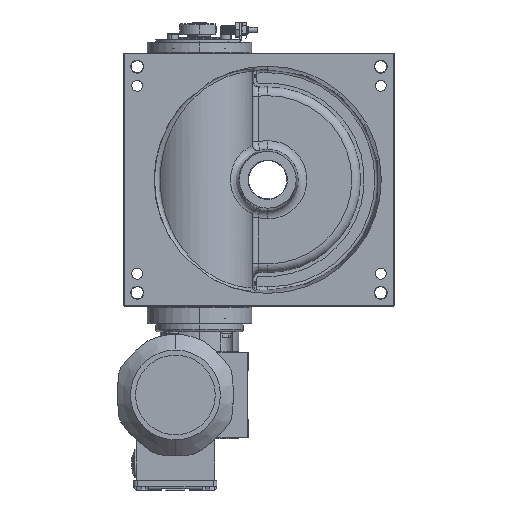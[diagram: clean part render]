
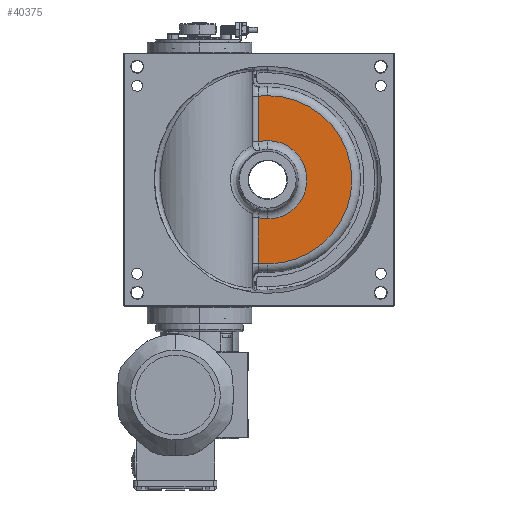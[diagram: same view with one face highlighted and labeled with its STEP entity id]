
A CAD part, front view. The second image highlights one B-rep face of the part: STEP entity #40375.
In plain terms, the highlighted planar face has unit normal (0, -1, 0).
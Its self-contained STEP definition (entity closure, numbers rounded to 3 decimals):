
#369 = VERTEX_POINT ( 'NONE', #45977 ) ;
#3325 = CARTESIAN_POINT ( 'NONE',  ( 0., 63.6, 77.004 ) ) ;
#4085 = DIRECTION ( 'NONE',  ( 0., 0., -1. ) ) ;
#4348 = CIRCLE ( 'NONE', #29787, 35.841 ) ;
#4965 = LINE ( 'NONE', #52144, #61152 ) ;
#5369 = VERTEX_POINT ( 'NONE', #6108 ) ;
#5604 = DIRECTION ( 'NONE',  ( 0., -1., 0. ) ) ;
#6108 = CARTESIAN_POINT ( 'NONE',  ( -8.737, 63.6, -76.507 ) ) ;
#9042 = CARTESIAN_POINT ( 'NONE',  ( 0., 63.6, 35.841 ) ) ;
#10329 = CARTESIAN_POINT ( 'NONE',  ( 0., 63.6, 0. ) ) ;
#11969 = LINE ( 'NONE', #42294, #32937 ) ;
#13239 = EDGE_CURVE ( 'NONE', #5369, #20577, #55159, .T. ) ;
#13867 = CIRCLE ( 'NONE', #30408, 35.841 ) ;
#13874 = ORIENTED_EDGE ( 'NONE', *, *, #65819, .T. ) ;
#14852 = CARTESIAN_POINT ( 'NONE',  ( 0., 63.6, 0. ) ) ;
#20526 = VERTEX_POINT ( 'NONE', #55568 ) ;
#20577 = VERTEX_POINT ( 'NONE', #38685 ) ;
#20694 = EDGE_CURVE ( 'NONE', #20526, #369, #13867, .T. ) ;
#23083 = VERTEX_POINT ( 'NONE', #9042 ) ;
#23374 = CIRCLE ( 'NONE', #68158, 77.004 ) ;
#23524 = FACE_OUTER_BOUND ( 'NONE', #74339, .T. ) ;
#25264 = CARTESIAN_POINT ( 'NONE',  ( -8.737, 63.6, 34.76 ) ) ;
#25466 = DIRECTION ( 'NONE',  ( 0., 0., -1. ) ) ;
#26495 = ORIENTED_EDGE ( 'NONE', *, *, #45075, .T. ) ;
#26795 = EDGE_CURVE ( 'NONE', #20577, #37295, #23374, .T. ) ;
#29787 = AXIS2_PLACEMENT_3D ( 'NONE', #14852, #39201, #39995 ) ;
#30408 = AXIS2_PLACEMENT_3D ( 'NONE', #10329, #53505, #77871 ) ;
#32070 = VERTEX_POINT ( 'NONE', #25264 ) ;
#32937 = VECTOR ( 'NONE', #25466, 1000. ) ;
#34012 = DIRECTION ( 'NONE',  ( 0., 1., 0. ) ) ;
#35399 = CARTESIAN_POINT ( 'NONE',  ( 0., 63.6, 0. ) ) ;
#35804 = DIRECTION ( 'NONE',  ( 0., 0., -1. ) ) ;
#36333 = DIRECTION ( 'NONE',  ( 0., 0., -1. ) ) ;
#37295 = VERTEX_POINT ( 'NONE', #3325 ) ;
#37711 = VERTEX_POINT ( 'NONE', #57917 ) ;
#38685 = CARTESIAN_POINT ( 'NONE',  ( 0., 63.6, -77.004 ) ) ;
#39135 = EDGE_CURVE ( 'NONE', #37295, #37711, #54606, .T. ) ;
#39201 = DIRECTION ( 'NONE',  ( 0., 1., 0. ) ) ;
#39369 = EDGE_CURVE ( 'NONE', #369, #5369, #11969, .T. ) ;
#39995 = DIRECTION ( 'NONE',  ( 0., 0., -1. ) ) ;
#40375 = ADVANCED_FACE ( 'NONE', ( #23524 ), #47549, .T. ) ;
#40392 = CARTESIAN_POINT ( 'NONE',  ( 0., 63.6, 0. ) ) ;
#42294 = CARTESIAN_POINT ( 'NONE',  ( -8.737, 63.6, -75.8 ) ) ;
#42505 = ORIENTED_EDGE ( 'NONE', *, *, #44138, .T. ) ;
#42559 = ORIENTED_EDGE ( 'NONE', *, *, #39135, .T. ) ;
#44138 = EDGE_CURVE ( 'NONE', #37711, #32070, #4965, .T. ) ;
#45075 = EDGE_CURVE ( 'NONE', #23083, #20526, #57502, .T. ) ;
#45357 = AXIS2_PLACEMENT_3D ( 'NONE', #47935, #5604, #36333 ) ;
#45904 = CARTESIAN_POINT ( 'NONE',  ( 0., 63.6, 0. ) ) ;
#45977 = CARTESIAN_POINT ( 'NONE',  ( -8.737, 63.6, -34.76 ) ) ;
#47549 = PLANE ( 'NONE',  #45357 ) ;
#47935 = CARTESIAN_POINT ( 'NONE',  ( 0., 63.6, 0. ) ) ;
#52144 = CARTESIAN_POINT ( 'NONE',  ( -8.737, 63.6, 33.175 ) ) ;
#52372 = DIRECTION ( 'NONE',  ( 0., -1., 0. ) ) ;
#53505 = DIRECTION ( 'NONE',  ( 0., 1., 0. ) ) ;
#54606 = CIRCLE ( 'NONE', #62248, 77.004 ) ;
#55159 = CIRCLE ( 'NONE', #76807, 77.004 ) ;
#55568 = CARTESIAN_POINT ( 'NONE',  ( 0., 63.6, -35.841 ) ) ;
#55607 = ORIENTED_EDGE ( 'NONE', *, *, #13239, .T. ) ;
#57502 = CIRCLE ( 'NONE', #77919, 35.841 ) ;
#57917 = CARTESIAN_POINT ( 'NONE',  ( -8.737, 63.6, 76.507 ) ) ;
#60585 = DIRECTION ( 'NONE',  ( 0., -1., 0. ) ) ;
#61152 = VECTOR ( 'NONE', #76503, 1000. ) ;
#62110 = DIRECTION ( 'NONE',  ( 0., -1., 0. ) ) ;
#62248 = AXIS2_PLACEMENT_3D ( 'NONE', #68505, #62110, #62505 ) ;
#62505 = DIRECTION ( 'NONE',  ( 0., 0., -1. ) ) ;
#64260 = ORIENTED_EDGE ( 'NONE', *, *, #26795, .T. ) ;
#65348 = ORIENTED_EDGE ( 'NONE', *, *, #39369, .T. ) ;
#65819 = EDGE_CURVE ( 'NONE', #32070, #23083, #4348, .T. ) ;
#68158 = AXIS2_PLACEMENT_3D ( 'NONE', #35399, #60585, #35804 ) ;
#68505 = CARTESIAN_POINT ( 'NONE',  ( 0., 63.6, 0. ) ) ;
#69784 = ORIENTED_EDGE ( 'NONE', *, *, #20694, .T. ) ;
#74339 = EDGE_LOOP ( 'NONE', ( #55607, #64260, #42559, #42505, #13874, #26495, #69784, #65348 ) ) ;
#76503 = DIRECTION ( 'NONE',  ( 0., 0., -1. ) ) ;
#76734 = DIRECTION ( 'NONE',  ( 0., 0., -1. ) ) ;
#76807 = AXIS2_PLACEMENT_3D ( 'NONE', #45904, #52372, #76734 ) ;
#77871 = DIRECTION ( 'NONE',  ( 0., 0., -1. ) ) ;
#77919 = AXIS2_PLACEMENT_3D ( 'NONE', #40392, #34012, #4085 ) ;
